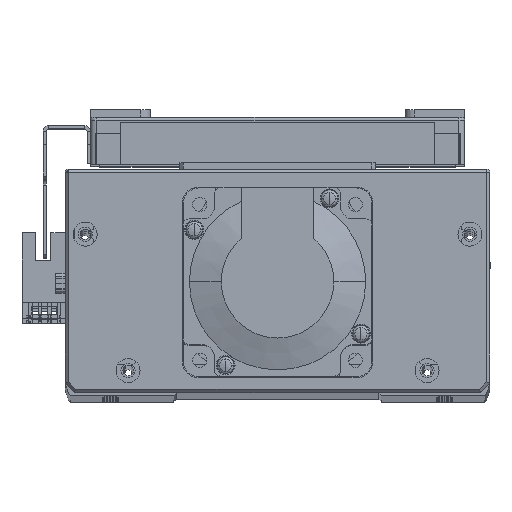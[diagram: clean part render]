
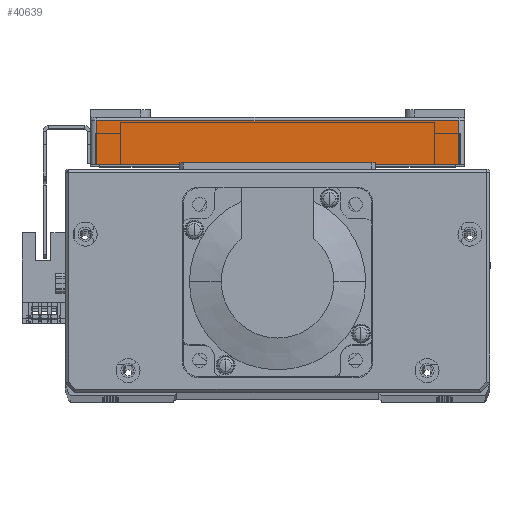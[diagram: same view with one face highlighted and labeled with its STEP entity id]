
A CAD part, top view. The second image highlights one B-rep face of the part: STEP entity #40639.
In plain terms, the highlighted planar face has unit normal (0, 0, 1) as drawn and (-1, 0, 0) by its records, which use the part's own axes.
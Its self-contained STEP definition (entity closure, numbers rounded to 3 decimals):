
#10 = EDGE_CURVE ( 'NONE', #55275, #5875, #20999, .T. ) ;
#24 = EDGE_CURVE ( 'NONE', #55271, #55275, #21018, .T. ) ;
#56 = EDGE_CURVE ( 'NONE', #5810, #55271, #657, .T. ) ;
#657 = LINE ( 'NONE', #53321, #673 ) ;
#673 = VECTOR ( 'NONE', #53336, 1000. ) ;
#5810 = VERTEX_POINT ( 'NONE', #57162 ) ;
#5875 = VERTEX_POINT ( 'NONE', #57231 ) ;
#10922 = LINE ( 'NONE', #12355, #10927 ) ;
#10927 = VECTOR ( 'NONE', #12361, 1000. ) ;
#12355 = CARTESIAN_POINT ( 'NONE',  ( -95., 0., -59.5 ) ) ;
#12361 = DIRECTION ( 'NONE',  ( 0., 0., 1. ) ) ;
#18417 = ORIENTED_EDGE ( 'NONE', *, *, #10, .T. ) ;
#18424 = ORIENTED_EDGE ( 'NONE', *, *, #56, .T. ) ;
#18434 = ORIENTED_EDGE ( 'NONE', *, *, #24, .T. ) ;
#18470 = ORIENTED_EDGE ( 'NONE', *, *, #57836, .T. ) ;
#19141 = CARTESIAN_POINT ( 'NONE',  ( -95., 14., -57.5 ) ) ;
#19151 = CARTESIAN_POINT ( 'NONE',  ( -95., 14., 57.5 ) ) ;
#20995 = VECTOR ( 'NONE', #53262, 1000. ) ;
#20999 = LINE ( 'NONE', #53206, #21012 ) ;
#21012 = VECTOR ( 'NONE', #53229, 1000. ) ;
#21018 = LINE ( 'NONE', #53245, #20995 ) ;
#24956 = PLANE ( 'NONE',  #43762 ) ;
#25018 = DIRECTION ( 'NONE',  ( 0., 0., -1. ) ) ;
#25066 = DIRECTION ( 'NONE',  ( 1., 0., 0. ) ) ;
#25077 = CARTESIAN_POINT ( 'NONE',  ( -95., 15., -59.5 ) ) ;
#28220 = EDGE_LOOP ( 'NONE', ( #18424, #18434, #18417, #18470 ) ) ;
#40639 = ADVANCED_FACE ( 'NONE', ( #45300 ), #24956, .F. ) ;
#43762 = AXIS2_PLACEMENT_3D ( 'NONE', #25077, #25066, #25018 ) ;
#45300 = FACE_OUTER_BOUND ( 'NONE', #28220, .T. ) ;
#53206 = CARTESIAN_POINT ( 'NONE',  ( -95., 15., -57.5 ) ) ;
#53229 = DIRECTION ( 'NONE',  ( 0., -1., 0. ) ) ;
#53245 = CARTESIAN_POINT ( 'NONE',  ( -95., 14., -57.5 ) ) ;
#53262 = DIRECTION ( 'NONE',  ( 0., 0., -1. ) ) ;
#53321 = CARTESIAN_POINT ( 'NONE',  ( -95., 15., 57.5 ) ) ;
#53336 = DIRECTION ( 'NONE',  ( 0., 1., 0. ) ) ;
#55271 = VERTEX_POINT ( 'NONE', #19151 ) ;
#55275 = VERTEX_POINT ( 'NONE', #19141 ) ;
#57162 = CARTESIAN_POINT ( 'NONE',  ( -95., 0., 57.5 ) ) ;
#57231 = CARTESIAN_POINT ( 'NONE',  ( -95., 0., -57.5 ) ) ;
#57836 = EDGE_CURVE ( 'NONE', #5875, #5810, #10922, .T. ) ;
